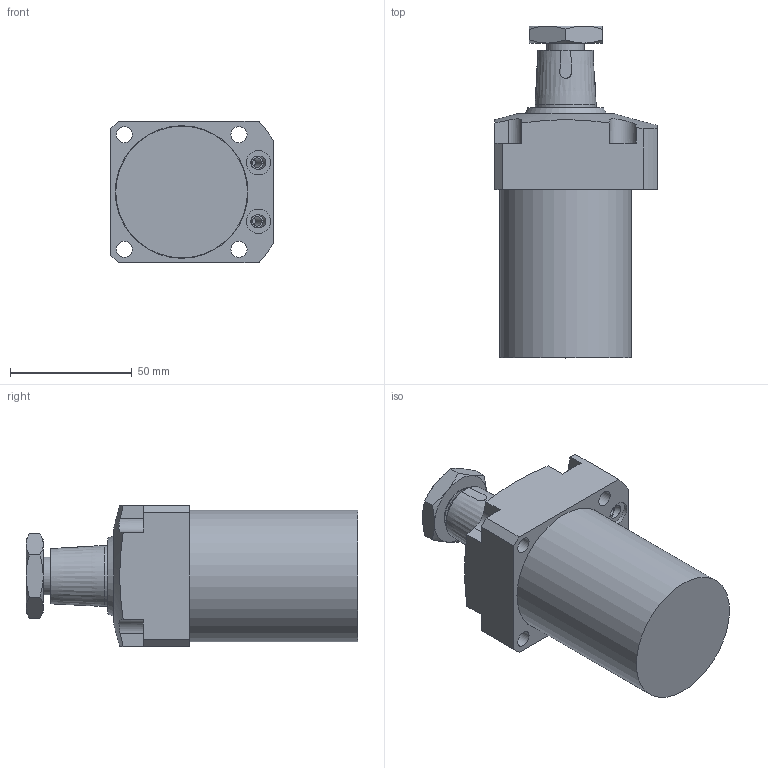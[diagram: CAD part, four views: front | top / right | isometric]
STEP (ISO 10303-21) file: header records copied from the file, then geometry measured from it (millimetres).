
FILE_DESCRIPTION( ( '' ), '1' );
FILE_NAME( 'W:/Catalogue/JF6H/JF6H42-24/JF6H42-24.stp', '2008-05-26T00:58:32', ( '機械事業部産業機器グループ' ), ( '豊和工業株式会社' ), 'XStep 1.0', ' ', ' ' );
FILE_SCHEMA( ( 'CONFIG_CONTROL_DESIGN' ) );
Length unit declared in the file: millimetre
Products named in the file (5): Assem1; 1; 2; 3; 4
Bounding box: 66.5 x 136 x 58 mm (x, y, z)
Volume: 513379.9 mm3; surface area: 116502.6 mm2
Topology: 9 solids, 13 shells, 300 faces, 677 edges, 433 vertices
Faces by surface type: plane 164, cylinder 72, cone 60, torus 2, sphere 2
Full cylindrical faces by diameter (mm): 2 x2, 4 x4, 5.5 x4, 6 x2, 6.6 x8, 8.3 x4, 10 x4, 15.5 x2, 18 x4, 25 x4, 27 x2, 32 x2, 37 x4, 42 x6, 48 x2, 54 x2, 54.4 x2
Entity records: 4194 total; most frequent: CARTESIAN_POINT 1067, DIRECTION 606, ORIENTED_EDGE 504, AXIS2_PLACEMENT_3D 253, EDGE_CURVE 252, EDGE_LOOP 222, VERTEX_POINT 188, FACE_OUTER_BOUND 172
